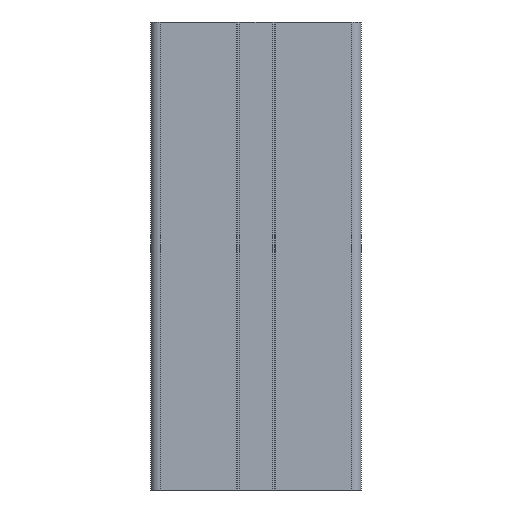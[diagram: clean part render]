
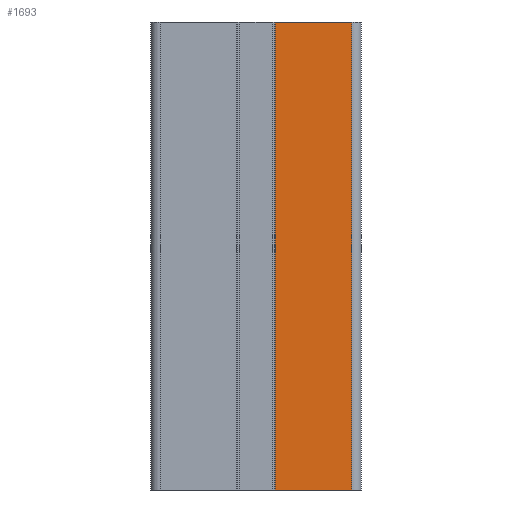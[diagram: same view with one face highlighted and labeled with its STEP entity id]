
A CAD part, front view. The second image highlights one B-rep face of the part: STEP entity #1693.
In plain terms, the highlighted planar face has unit normal (0, -1, 0).
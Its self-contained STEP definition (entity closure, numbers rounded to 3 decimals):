
#94 = EDGE_CURVE ( 'NONE', #1330, #1477, #190, .T. ) ;
#124 = LINE ( 'NONE', #786, #201 ) ;
#190 = LINE ( 'NONE', #376, #2031 ) ;
#201 = VECTOR ( 'NONE', #1670, 1000. ) ;
#297 = EDGE_CURVE ( 'NONE', #1330, #1929, #1275, .T. ) ;
#331 = CARTESIAN_POINT ( 'NONE',  ( 4.15, -22.5, 0. ) ) ;
#370 = ORIENTED_EDGE ( 'NONE', *, *, #94, .F. ) ;
#376 = CARTESIAN_POINT ( 'NONE',  ( 4.15, -22.5, -100. ) ) ;
#435 = VERTEX_POINT ( 'NONE', #1334 ) ;
#641 = CARTESIAN_POINT ( 'NONE',  ( 4.15, -22.5, -100. ) ) ;
#749 = DIRECTION ( 'NONE',  ( 0., 0., 1. ) ) ;
#786 = CARTESIAN_POINT ( 'NONE',  ( 4.15, -22.5, 0. ) ) ;
#1099 = ORIENTED_EDGE ( 'NONE', *, *, #297, .T. ) ;
#1129 = DIRECTION ( 'NONE',  ( 0., -1., 0. ) ) ;
#1139 = VECTOR ( 'NONE', #1348, 1000. ) ;
#1160 = AXIS2_PLACEMENT_3D ( 'NONE', #1326, #1129, #2011 ) ;
#1275 = LINE ( 'NONE', #1969, #1139 ) ;
#1280 = EDGE_LOOP ( 'NONE', ( #1481, #370, #1099, #2184 ) ) ;
#1326 = CARTESIAN_POINT ( 'NONE',  ( 4.15, -22.5, -100. ) ) ;
#1330 = VERTEX_POINT ( 'NONE', #641 ) ;
#1334 = CARTESIAN_POINT ( 'NONE',  ( 20.5, -22.5, 0. ) ) ;
#1348 = DIRECTION ( 'NONE',  ( 1., 0., 0. ) ) ;
#1477 = VERTEX_POINT ( 'NONE', #331 ) ;
#1481 = ORIENTED_EDGE ( 'NONE', *, *, #1709, .F. ) ;
#1561 = VECTOR ( 'NONE', #749, 1000. ) ;
#1575 = EDGE_CURVE ( 'NONE', #1929, #435, #1981, .T. ) ;
#1670 = DIRECTION ( 'NONE',  ( 1., 0., 0. ) ) ;
#1693 = ADVANCED_FACE ( 'NONE', ( #2179 ), #2188, .T. ) ;
#1709 = EDGE_CURVE ( 'NONE', #1477, #435, #124, .T. ) ;
#1785 = CARTESIAN_POINT ( 'NONE',  ( 20.5, -22.5, -100. ) ) ;
#1929 = VERTEX_POINT ( 'NONE', #1785 ) ;
#1943 = CARTESIAN_POINT ( 'NONE',  ( 20.5, -22.5, -100. ) ) ;
#1969 = CARTESIAN_POINT ( 'NONE',  ( 4.15, -22.5, -100. ) ) ;
#1981 = LINE ( 'NONE', #1943, #1561 ) ;
#2011 = DIRECTION ( 'NONE',  ( 0., 0., -1. ) ) ;
#2031 = VECTOR ( 'NONE', #2113, 1000. ) ;
#2113 = DIRECTION ( 'NONE',  ( 0., 0., 1. ) ) ;
#2179 = FACE_OUTER_BOUND ( 'NONE', #1280, .T. ) ;
#2184 = ORIENTED_EDGE ( 'NONE', *, *, #1575, .T. ) ;
#2188 = PLANE ( 'NONE',  #1160 ) ;
